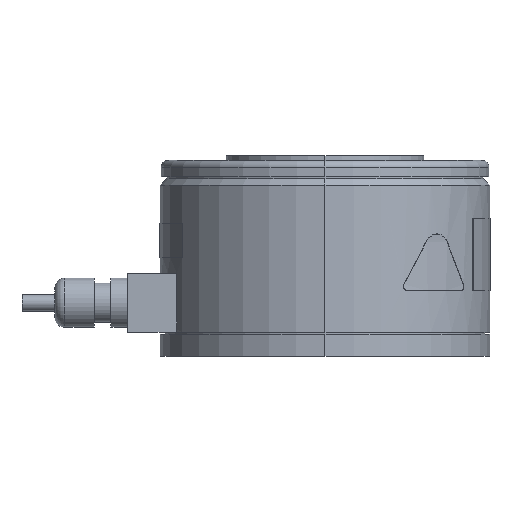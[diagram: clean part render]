
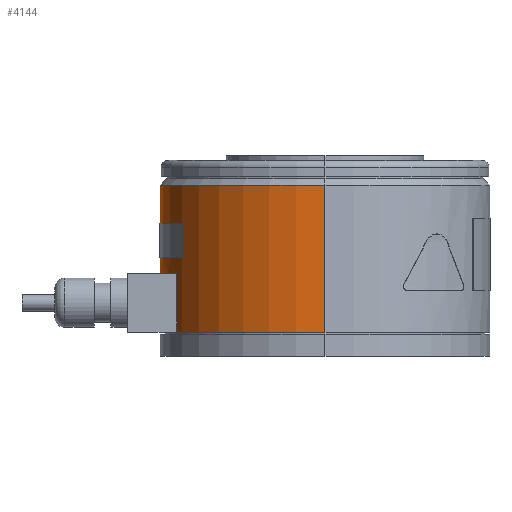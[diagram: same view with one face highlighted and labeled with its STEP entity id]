
A CAD part, left-side view. The second image highlights one B-rep face of the part: STEP entity #4144.
In plain terms, the highlighted cylindrical face has radius 50 mm (diameter 100 mm), a partial arc.
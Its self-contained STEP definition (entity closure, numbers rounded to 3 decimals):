
#533 = CARTESIAN_POINT ( 'NONE',  ( 0., 0., 8.3 ) ) ;
#536 = CARTESIAN_POINT ( 'NONE',  ( 0., 0., 25.3 ) ) ;
#537 = CARTESIAN_POINT ( 'NONE',  ( 0., 0., 30. ) ) ;
#538 = DIRECTION ( 'NONE',  ( 0., 0., 1. ) ) ;
#539 = DIRECTION ( 'NONE',  ( -1., 0., 0. ) ) ;
#540 = CARTESIAN_POINT ( 'NONE',  ( 21.75, 45.022, 25.3 ) ) ;
#541 = DIRECTION ( 'NONE',  ( 0., 0., -1. ) ) ;
#542 = CARTESIAN_POINT ( 'NONE',  ( 0., 0., 40.5 ) ) ;
#543 = DIRECTION ( 'NONE',  ( 0., 0., 1. ) ) ;
#544 = DIRECTION ( 'NONE',  ( -1., 0., 0. ) ) ;
#545 = CARTESIAN_POINT ( 'NONE',  ( 50., 0., 0. ) ) ;
#546 = DIRECTION ( 'NONE',  ( 0., 0., 1. ) ) ;
#547 = DIRECTION ( 'NONE',  ( -1., 0., 0. ) ) ;
#548 = CARTESIAN_POINT ( 'NONE',  ( -25., 43.301, 0. ) ) ;
#549 = DIRECTION ( 'NONE',  ( 0., 0., 1. ) ) ;
#550 = DIRECTION ( 'NONE',  ( 0., 0., -1. ) ) ;
#551 = DIRECTION ( 'NONE',  ( 1., 0., 0. ) ) ;
#552 = CARTESIAN_POINT ( 'NONE',  ( 25., 43.301, 0. ) ) ;
#553 = DIRECTION ( 'NONE',  ( 0., 0., -1. ) ) ;
#554 = CARTESIAN_POINT ( 'NONE',  ( -50., 0., 0. ) ) ;
#555 = DIRECTION ( 'NONE',  ( 0., 0., -1. ) ) ;
#557 = DIRECTION ( 'NONE',  ( 0., 0., -1. ) ) ;
#561 = CARTESIAN_POINT ( 'NONE',  ( 0., 0., 7.3 ) ) ;
#562 = DIRECTION ( 'NONE',  ( 0., 0., -1. ) ) ;
#563 = DIRECTION ( 'NONE',  ( -1., 0., 0. ) ) ;
#605 = VECTOR ( 'NONE', #541, 1000. ) ;
#607 = LINE ( 'NONE', #540, #605 ) ;
#610 = LINE ( 'NONE', #548, #614 ) ;
#612 = CIRCLE ( 'NONE', #5250, 50. ) ;
#613 = LINE ( 'NONE', #552, #616 ) ;
#614 = VECTOR ( 'NONE', #549, 1000. ) ;
#615 = CIRCLE ( 'NONE', #5248, 50. ) ;
#616 = VECTOR ( 'NONE', #553, 1000. ) ;
#617 = CIRCLE ( 'NONE', #5241, 50. ) ;
#619 = LINE ( 'NONE', #545, #623 ) ;
#620 = CIRCLE ( 'NONE', #5246, 50. ) ;
#621 = LINE ( 'NONE', #554, #622 ) ;
#622 = VECTOR ( 'NONE', #555, 1000. ) ;
#623 = VECTOR ( 'NONE', #557, 1000. ) ;
#627 = CIRCLE ( 'NONE', #5247, 50. ) ;
#978 = FACE_BOUND ( 'NONE', #5745, .T. ) ;
#982 = CYLINDRICAL_SURFACE ( 'NONE', #1353, 50. ) ;
#986 = FACE_BOUND ( 'NONE', #5738, .T. ) ;
#988 = FACE_OUTER_BOUND ( 'NONE', #5593, .T. ) ;
#1070 = ORIENTED_EDGE ( 'NONE', *, *, #4571, .F. ) ;
#1353 = AXIS2_PLACEMENT_3D ( 'NONE', #2426, #2429, #2428 ) ;
#1391 = AXIS2_PLACEMENT_3D ( 'NONE', #5041, #5042, #5043 ) ;
#2426 = CARTESIAN_POINT ( 'NONE',  ( 0., 0., 0. ) ) ;
#2428 = DIRECTION ( 'NONE',  ( -1., 0., 0. ) ) ;
#2429 = DIRECTION ( 'NONE',  ( 0., 0., -1. ) ) ;
#2857 = VERTEX_POINT ( 'NONE', #6273 ) ;
#2858 = VERTEX_POINT ( 'NONE', #6270 ) ;
#2859 = VERTEX_POINT ( 'NONE', #6274 ) ;
#2860 = VERTEX_POINT ( 'NONE', #6265 ) ;
#2861 = VERTEX_POINT ( 'NONE', #6275 ) ;
#2862 = VERTEX_POINT ( 'NONE', #6276 ) ;
#2863 = VERTEX_POINT ( 'NONE', #6277 ) ;
#2864 = VERTEX_POINT ( 'NONE', #6278 ) ;
#2869 = VERTEX_POINT ( 'NONE', #6283 ) ;
#2870 = VERTEX_POINT ( 'NONE', #6284 ) ;
#2871 = VERTEX_POINT ( 'NONE', #6285 ) ;
#2872 = VERTEX_POINT ( 'NONE', #6286 ) ;
#3931 = ORIENTED_EDGE ( 'NONE', *, *, #4580, .F. ) ;
#3932 = ORIENTED_EDGE ( 'NONE', *, *, #4577, .F. ) ;
#4144 = ADVANCED_FACE ( 'NONE', ( #978, #986, #988 ), #982, .T. ) ;
#4266 = EDGE_CURVE ( 'NONE', #2861, #2862, #5108, .T. ) ;
#4268 = EDGE_CURVE ( 'NONE', #2858, #2857, #5113, .T. ) ;
#4570 = EDGE_CURVE ( 'NONE', #2859, #2861, #612, .T. ) ;
#4571 = EDGE_CURVE ( 'NONE', #2859, #2860, #607, .T. ) ;
#4572 = EDGE_CURVE ( 'NONE', #2860, #2862, #615, .T. ) ;
#4573 = EDGE_CURVE ( 'NONE', #2869, #2863, #617, .T. ) ;
#4574 = EDGE_CURVE ( 'NONE', #2863, #2864, #610, .T. ) ;
#4575 = EDGE_CURVE ( 'NONE', #2864, #2870, #620, .T. ) ;
#4576 = EDGE_CURVE ( 'NONE', #2870, #2869, #613, .T. ) ;
#4577 = EDGE_CURVE ( 'NONE', #2858, #2872, #621, .T. ) ;
#4578 = EDGE_CURVE ( 'NONE', #2857, #2871, #619, .T. ) ;
#4580 = EDGE_CURVE ( 'NONE', #2872, #2871, #627, .T. ) ;
#5036 = CARTESIAN_POINT ( 'NONE',  ( -21.75, 45.022, 25.3 ) ) ;
#5037 = DIRECTION ( 'NONE',  ( 0., 0., -1. ) ) ;
#5041 = CARTESIAN_POINT ( 'NONE',  ( 0., 0., 52. ) ) ;
#5042 = DIRECTION ( 'NONE',  ( 0., 0., -1. ) ) ;
#5043 = DIRECTION ( 'NONE',  ( -1., 0., 0. ) ) ;
#5103 = VECTOR ( 'NONE', #5037, 1000. ) ;
#5108 = LINE ( 'NONE', #5036, #5103 ) ;
#5113 = CIRCLE ( 'NONE', #1391, 50. ) ;
#5241 = AXIS2_PLACEMENT_3D ( 'NONE', #537, #546, #547 ) ;
#5246 = AXIS2_PLACEMENT_3D ( 'NONE', #542, #550, #551 ) ;
#5247 = AXIS2_PLACEMENT_3D ( 'NONE', #561, #562, #563 ) ;
#5248 = AXIS2_PLACEMENT_3D ( 'NONE', #533, #543, #544 ) ;
#5250 = AXIS2_PLACEMENT_3D ( 'NONE', #536, #538, #539 ) ;
#5593 = EDGE_LOOP ( 'NONE', ( #6044, #6045, #3931, #3932 ) ) ;
#5738 = EDGE_LOOP ( 'NONE', ( #6040, #6041, #6042, #6043 ) ) ;
#5745 = EDGE_LOOP ( 'NONE', ( #1070, #6002, #5997, #6039 ) ) ;
#5997 = ORIENTED_EDGE ( 'NONE', *, *, #4266, .T. ) ;
#6002 = ORIENTED_EDGE ( 'NONE', *, *, #4570, .T. ) ;
#6039 = ORIENTED_EDGE ( 'NONE', *, *, #4572, .F. ) ;
#6040 = ORIENTED_EDGE ( 'NONE', *, *, #4574, .F. ) ;
#6041 = ORIENTED_EDGE ( 'NONE', *, *, #4573, .F. ) ;
#6042 = ORIENTED_EDGE ( 'NONE', *, *, #4576, .F. ) ;
#6043 = ORIENTED_EDGE ( 'NONE', *, *, #4575, .F. ) ;
#6044 = ORIENTED_EDGE ( 'NONE', *, *, #4268, .T. ) ;
#6045 = ORIENTED_EDGE ( 'NONE', *, *, #4578, .T. ) ;
#6265 = CARTESIAN_POINT ( 'NONE',  ( 21.75, 45.022, 8.3 ) ) ;
#6270 = CARTESIAN_POINT ( 'NONE',  ( -50., 0., 52. ) ) ;
#6273 = CARTESIAN_POINT ( 'NONE',  ( 50., 0., 52. ) ) ;
#6274 = CARTESIAN_POINT ( 'NONE',  ( 21.75, 45.022, 25.3 ) ) ;
#6275 = CARTESIAN_POINT ( 'NONE',  ( -21.75, 45.022, 25.3 ) ) ;
#6276 = CARTESIAN_POINT ( 'NONE',  ( -21.75, 45.022, 8.3 ) ) ;
#6277 = CARTESIAN_POINT ( 'NONE',  ( -25., 43.301, 30. ) ) ;
#6278 = CARTESIAN_POINT ( 'NONE',  ( -25., 43.301, 40.5 ) ) ;
#6283 = CARTESIAN_POINT ( 'NONE',  ( 25., 43.301, 30. ) ) ;
#6284 = CARTESIAN_POINT ( 'NONE',  ( 25., 43.301, 40.5 ) ) ;
#6285 = CARTESIAN_POINT ( 'NONE',  ( 50., 0., 7.3 ) ) ;
#6286 = CARTESIAN_POINT ( 'NONE',  ( -50., 0., 7.3 ) ) ;
